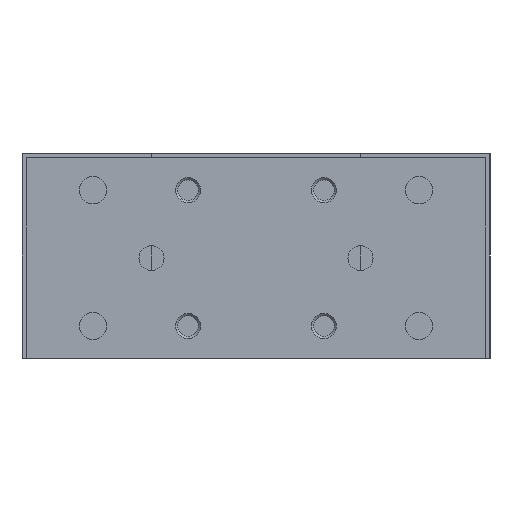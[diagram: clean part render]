
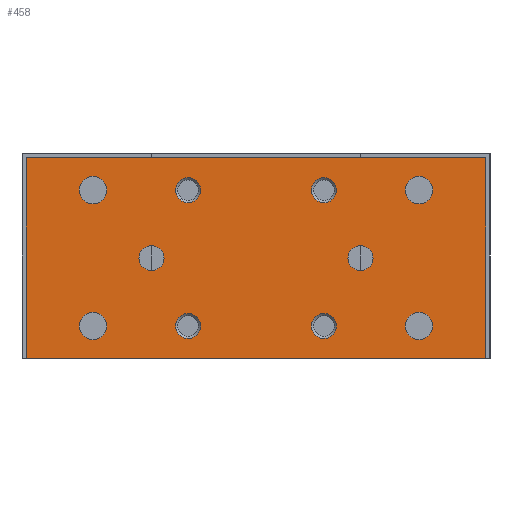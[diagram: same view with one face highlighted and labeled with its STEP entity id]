
A CAD part, left-side view. The second image highlights one B-rep face of the part: STEP entity #458.
In plain terms, the highlighted planar face has unit normal (-1, 0, 0).
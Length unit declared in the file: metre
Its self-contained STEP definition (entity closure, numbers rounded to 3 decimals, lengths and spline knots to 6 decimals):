
#458 = ADVANCED_FACE( '', ( #1165, #1166, #1167, #1168, #1169, #1170, #1171, #1172, #1173, #1174, #1175 ), #1176, .F. );
#1165 = FACE_BOUND( '', #2233, .T. );
#1166 = FACE_BOUND( '', #2234, .T. );
#1167 = FACE_BOUND( '', #2235, .T. );
#1168 = FACE_BOUND( '', #2236, .T. );
#1169 = FACE_BOUND( '', #2237, .T. );
#1170 = FACE_BOUND( '', #2238, .T. );
#1171 = FACE_BOUND( '', #2239, .T. );
#1172 = FACE_BOUND( '', #2240, .T. );
#1173 = FACE_BOUND( '', #2241, .T. );
#1174 = FACE_BOUND( '', #2242, .T. );
#1175 = FACE_OUTER_BOUND( '', #2243, .T. );
#1176 = PLANE( '', #2244 );
#2233 = EDGE_LOOP( '', ( #3541 ) );
#2234 = EDGE_LOOP( '', ( #3542 ) );
#2235 = EDGE_LOOP( '', ( #3543 ) );
#2236 = EDGE_LOOP( '', ( #3544 ) );
#2237 = EDGE_LOOP( '', ( #3545 ) );
#2238 = EDGE_LOOP( '', ( #3546 ) );
#2239 = EDGE_LOOP( '', ( #3547 ) );
#2240 = EDGE_LOOP( '', ( #3548 ) );
#2241 = EDGE_LOOP( '', ( #3549 ) );
#2242 = EDGE_LOOP( '', ( #3550 ) );
#2243 = EDGE_LOOP( '', ( #3551, #3552, #3553, #3554 ) );
#2244 = AXIS2_PLACEMENT_3D( '', #3555, #3556, #3557 );
#3541 = ORIENTED_EDGE( '', *, *, #5066, .T. );
#3542 = ORIENTED_EDGE( '', *, *, #5132, .T. );
#3543 = ORIENTED_EDGE( '', *, *, #5133, .T. );
#3544 = ORIENTED_EDGE( '', *, *, #5134, .T. );
#3545 = ORIENTED_EDGE( '', *, *, #5135, .F. );
#3546 = ORIENTED_EDGE( '', *, *, #5048, .T. );
#3547 = ORIENTED_EDGE( '', *, *, #5136, .T. );
#3548 = ORIENTED_EDGE( '', *, *, #4894, .F. );
#3549 = ORIENTED_EDGE( '', *, *, #5137, .F. );
#3550 = ORIENTED_EDGE( '', *, *, #5138, .T. );
#3551 = ORIENTED_EDGE( '', *, *, #5139, .T. );
#3552 = ORIENTED_EDGE( '', *, *, #4997, .T. );
#3553 = ORIENTED_EDGE( '', *, *, #5077, .T. );
#3554 = ORIENTED_EDGE( '', *, *, #5140, .T. );
#3555 = CARTESIAN_POINT( '', ( -0.07925, -0.055, -0.049 ) );
#3556 = DIRECTION( '', ( 1., 0., 0. ) );
#3557 = DIRECTION( '', ( 0., 1., 0. ) );
#4894 = EDGE_CURVE( '', #5600, #5600, #5601, .T. );
#4997 = EDGE_CURVE( '', #5773, #5771, #5774, .T. );
#5048 = EDGE_CURVE( '', #5854, #5854, #5855, .T. );
#5066 = EDGE_CURVE( '', #5883, #5883, #5884, .T. );
#5077 = EDGE_CURVE( '', #5771, #5898, #5900, .T. );
#5132 = EDGE_CURVE( '', #5986, #5986, #5987, .T. );
#5133 = EDGE_CURVE( '', #5988, #5988, #5989, .T. );
#5134 = EDGE_CURVE( '', #5990, #5990, #5991, .T. );
#5135 = EDGE_CURVE( '', #5992, #5992, #5993, .T. );
#5136 = EDGE_CURVE( '', #5994, #5994, #5995, .T. );
#5137 = EDGE_CURVE( '', #5996, #5996, #5997, .T. );
#5138 = EDGE_CURVE( '', #5998, #5998, #5999, .T. );
#5139 = EDGE_CURVE( '', #6000, #5773, #6001, .T. );
#5140 = EDGE_CURVE( '', #5898, #6000, #6002, .T. );
#5600 = VERTEX_POINT( '', #6597 );
#5601 = CIRCLE( '', #6598, 0.003 );
#5771 = VERTEX_POINT( '', #6855 );
#5773 = VERTEX_POINT( '', #6858 );
#5774 = LINE( '', #6859, #6860 );
#5854 = VERTEX_POINT( '', #6969 );
#5855 = CIRCLE( '', #6970, 0.003 );
#5883 = VERTEX_POINT( '', #7005 );
#5884 = CIRCLE( '', #7006, 0.0033 );
#5898 = VERTEX_POINT( '', #7022 );
#5900 = LINE( '', #7025, #7026 );
#5986 = VERTEX_POINT( '', #7133 );
#5987 = CIRCLE( '', #7134, 0.0033 );
#5988 = VERTEX_POINT( '', #7135 );
#5989 = CIRCLE( '', #7136, 0.0033 );
#5990 = VERTEX_POINT( '', #7137 );
#5991 = CIRCLE( '', #7138, 0.0033 );
#5992 = VERTEX_POINT( '', #7139 );
#5993 = CIRCLE( '', #7140, 0.003 );
#5994 = VERTEX_POINT( '', #7141 );
#5995 = CIRCLE( '', #7142, 0.003 );
#5996 = VERTEX_POINT( '', #7143 );
#5997 = CIRCLE( '', #7144, 0.003 );
#5998 = VERTEX_POINT( '', #7145 );
#5999 = CIRCLE( '', #7146, 0.003 );
#6000 = VERTEX_POINT( '', #7147 );
#6001 = LINE( '', #7148, #7149 );
#6002 = LINE( '', #7150, #7151 );
#6597 = CARTESIAN_POINT( '', ( -0.07925, 0.01325, -0.04125 ) );
#6598 = AXIS2_PLACEMENT_3D( '', #7921, #7922, #7923 );
#6855 = CARTESIAN_POINT( '', ( -0.07925, 0.055, -0.001 ) );
#6858 = CARTESIAN_POINT( '', ( -0.07925, -0.055, -0.001 ) );
#6859 = CARTESIAN_POINT( '', ( -0.07925, -0.055, -0.001 ) );
#6860 = VECTOR( '', #8087, 1. );
#6969 = CARTESIAN_POINT( '', ( -0.07925, 0.025, -0.022 ) );
#6970 = AXIS2_PLACEMENT_3D( '', #8138, #8139, #8140 );
#7005 = CARTESIAN_POINT( '', ( -0.07925, -0.0357, -0.04125 ) );
#7006 = AXIS2_PLACEMENT_3D( '', #8160, #8161, #8162 );
#7022 = CARTESIAN_POINT( '', ( -0.07925, 0.055, -0.049 ) );
#7025 = CARTESIAN_POINT( '', ( -0.07925, 0.055, -0.001 ) );
#7026 = VECTOR( '', #8175, 1. );
#7133 = CARTESIAN_POINT( '', ( -0.07925, 0.0423, -0.04125 ) );
#7134 = AXIS2_PLACEMENT_3D( '', #8245, #8246, #8247 );
#7135 = CARTESIAN_POINT( '', ( -0.07925, -0.0357, -0.00875 ) );
#7136 = AXIS2_PLACEMENT_3D( '', #8248, #8249, #8250 );
#7137 = CARTESIAN_POINT( '', ( -0.07925, 0.0423, -0.00875 ) );
#7138 = AXIS2_PLACEMENT_3D( '', #8251, #8252, #8253 );
#7139 = CARTESIAN_POINT( '', ( -0.07925, -0.025, -0.022 ) );
#7140 = AXIS2_PLACEMENT_3D( '', #8254, #8255, #8256 );
#7141 = CARTESIAN_POINT( '', ( -0.07925, -0.01325, -0.04125 ) );
#7142 = AXIS2_PLACEMENT_3D( '', #8257, #8258, #8259 );
#7143 = CARTESIAN_POINT( '', ( -0.07925, -0.01325, -0.00875 ) );
#7144 = AXIS2_PLACEMENT_3D( '', #8260, #8261, #8262 );
#7145 = CARTESIAN_POINT( '', ( -0.07925, 0.01325, -0.00875 ) );
#7146 = AXIS2_PLACEMENT_3D( '', #8263, #8264, #8265 );
#7147 = CARTESIAN_POINT( '', ( -0.07925, -0.055, -0.049 ) );
#7148 = CARTESIAN_POINT( '', ( -0.07925, -0.055, -0.049 ) );
#7149 = VECTOR( '', #8266, 1. );
#7150 = CARTESIAN_POINT( '', ( -0.07925, 0.055, -0.049 ) );
#7151 = VECTOR( '', #8267, 1. );
#7921 = CARTESIAN_POINT( '', ( -0.07925, 0.01625, -0.04125 ) );
#7922 = DIRECTION( '', ( -1., 0., 0. ) );
#7923 = DIRECTION( '', ( 0., -1., 0. ) );
#8087 = DIRECTION( '', ( 0., 1., 0. ) );
#8138 = CARTESIAN_POINT( '', ( -0.07925, 0.025, -0.025 ) );
#8139 = DIRECTION( '', ( 1., 0., 0. ) );
#8140 = DIRECTION( '', ( 0., 0., 1. ) );
#8160 = CARTESIAN_POINT( '', ( -0.07925, -0.039, -0.04125 ) );
#8161 = DIRECTION( '', ( 1., 0., 0. ) );
#8162 = DIRECTION( '', ( 0., 1., 0. ) );
#8175 = DIRECTION( '', ( 0., 0., -1. ) );
#8245 = CARTESIAN_POINT( '', ( -0.07925, 0.039, -0.04125 ) );
#8246 = DIRECTION( '', ( 1., 0., 0. ) );
#8247 = DIRECTION( '', ( 0., 1., 0. ) );
#8248 = CARTESIAN_POINT( '', ( -0.07925, -0.039, -0.00875 ) );
#8249 = DIRECTION( '', ( 1., 0., 0. ) );
#8250 = DIRECTION( '', ( 0., 1., 0. ) );
#8251 = CARTESIAN_POINT( '', ( -0.07925, 0.039, -0.00875 ) );
#8252 = DIRECTION( '', ( 1., 0., 0. ) );
#8253 = DIRECTION( '', ( 0., 1., 0. ) );
#8254 = CARTESIAN_POINT( '', ( -0.07925, -0.025, -0.025 ) );
#8255 = DIRECTION( '', ( -1., 0., 0. ) );
#8256 = DIRECTION( '', ( 0., 0., 1. ) );
#8257 = CARTESIAN_POINT( '', ( -0.07925, -0.01625, -0.04125 ) );
#8258 = DIRECTION( '', ( 1., 0., 0. ) );
#8259 = DIRECTION( '', ( 0., 1., 0. ) );
#8260 = CARTESIAN_POINT( '', ( -0.07925, -0.01625, -0.00875 ) );
#8261 = DIRECTION( '', ( -1., 0., 0. ) );
#8262 = DIRECTION( '', ( 0., 1., 0. ) );
#8263 = CARTESIAN_POINT( '', ( -0.07925, 0.01625, -0.00875 ) );
#8264 = DIRECTION( '', ( 1., 0., 0. ) );
#8265 = DIRECTION( '', ( 0., -1., 0. ) );
#8266 = DIRECTION( '', ( 0., 0., 1. ) );
#8267 = DIRECTION( '', ( 0., -1., 0. ) );
